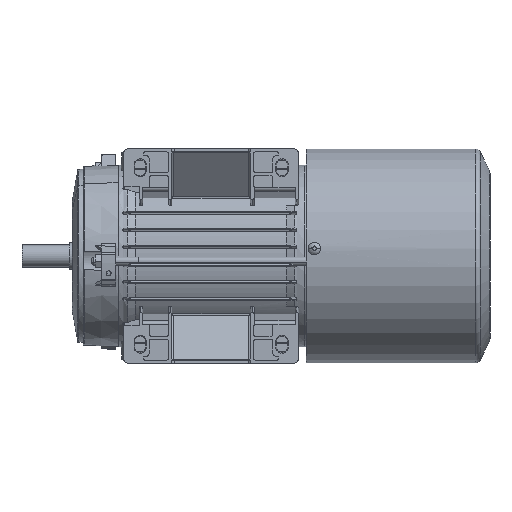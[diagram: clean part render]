
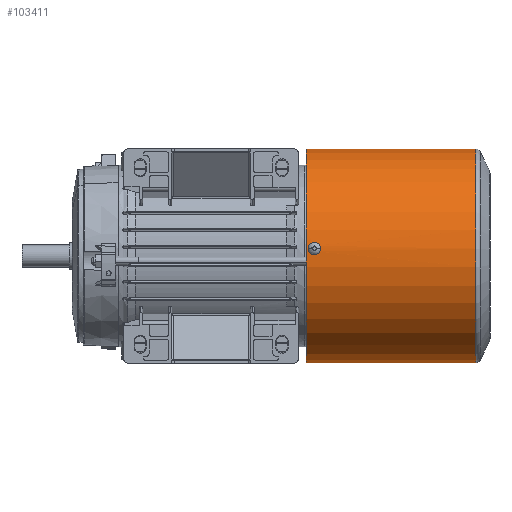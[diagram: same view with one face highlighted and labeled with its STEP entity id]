
A CAD part, front view. The second image highlights one B-rep face of the part: STEP entity #103411.
In plain terms, the highlighted cylindrical face has radius 68 mm (diameter 136 mm), a partial arc.
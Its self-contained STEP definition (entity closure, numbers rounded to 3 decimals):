
#375 = VECTOR ( 'NONE', #9395, 1000. ) ;
#478 = CARTESIAN_POINT ( 'NONE',  ( 1.898, 110.856, 67.974 ) ) ;
#823 = CARTESIAN_POINT ( 'NONE',  ( -0.262, 109.5, 68. ) ) ;
#1025 = EDGE_CURVE ( 'NONE', #42118, #5994, #48735, .T. ) ;
#1099 = CARTESIAN_POINT ( 'NONE',  ( -68., 139.861, 0. ) ) ;
#5353 = CARTESIAN_POINT ( 'NONE',  ( -1.506, 112.822, 67.983 ) ) ;
#5700 = CARTESIAN_POINT ( 'NONE',  ( 1.22, 113.09, 67.989 ) ) ;
#5857 = CARTESIAN_POINT ( 'NONE',  ( 0., 139.861, 0. ) ) ;
#5994 = VERTEX_POINT ( 'NONE', #36945 ) ;
#7322 = CARTESIAN_POINT ( 'NONE',  ( 0., 116.5, 0. ) ) ;
#8762 = CARTESIAN_POINT ( 'NONE',  ( 1.735, 110.497, 67.978 ) ) ;
#9114 = CARTESIAN_POINT ( 'NONE',  ( -1.006, 109.752, 67.993 ) ) ;
#9395 = DIRECTION ( 'NONE',  ( 0., 1., 0. ) ) ;
#9668 = CARTESIAN_POINT ( 'NONE',  ( 68., 9.011, 0. ) ) ;
#11026 = LINE ( 'NONE', #39787, #68591 ) ;
#12024 = CARTESIAN_POINT ( 'NONE',  ( 2., 111.5, 67.971 ) ) ;
#13642 = CARTESIAN_POINT ( 'NONE',  ( -1.221, 113.089, 67.989 ) ) ;
#13987 = CARTESIAN_POINT ( 'NONE',  ( 1.6, 112.729, 67.981 ) ) ;
#14091 = FACE_OUTER_BOUND ( 'NONE', #104205, .T. ) ;
#14504 = EDGE_CURVE ( 'NONE', #63236, #22202, #16116, .T. ) ;
#15591 = DIRECTION ( 'NONE',  ( -1., 0., 0. ) ) ;
#16116 = B_SPLINE_CURVE_WITH_KNOTS ( 'NONE', 3,
 ( #73889, #82150, #98485, #49556, #478, #57729, #8762, #65986, #17015, #74244, #25238, #82505, #33444, #90689, #41677, #98825, #49895, #823, #58092, #9114, #66336, #17382, #74602, #25588, #82858, #33814, #91028, #42021, #99183, #50236 ),
 .UNSPECIFIED., .F., .F.,
 ( 4, 2, 2, 2, 2, 2, 2, 2, 2, 2, 2, 2, 2, 2, 4 ),
 ( 0.003, 0.004, 0.004, 0.004, 0.005, 0.005, 0.005, 0.006, 0.006, 0.007, 0.008, 0.008, 0.009, 0.009, 0.009 ),
 .UNSPECIFIED. ) ;
#17015 = CARTESIAN_POINT ( 'NONE',  ( 1.507, 110.179, 67.983 ) ) ;
#17382 = CARTESIAN_POINT ( 'NONE',  ( -1.506, 110.178, 67.983 ) ) ;
#18300 = VERTEX_POINT ( 'NONE', #9668 ) ;
#21872 = CARTESIAN_POINT ( 'NONE',  ( -0.886, 113.298, 67.994 ) ) ;
#22202 = VERTEX_POINT ( 'NONE', #32102 ) ;
#22220 = CARTESIAN_POINT ( 'NONE',  ( 1.948, 112.024, 67.972 ) ) ;
#22417 = CARTESIAN_POINT ( 'NONE',  ( -68., 116.5, 0. ) ) ;
#23715 = DIRECTION ( 'NONE',  ( 0., 1., 0. ) ) ;
#23850 = EDGE_CURVE ( 'NONE', #18300, #5994, #11026, .T. ) ;
#25238 = CARTESIAN_POINT ( 'NONE',  ( 1.219, 109.909, 67.989 ) ) ;
#25588 = CARTESIAN_POINT ( 'NONE',  ( -1.736, 110.498, 67.978 ) ) ;
#30107 = CARTESIAN_POINT ( 'NONE',  ( -0.263, 113.5, 68. ) ) ;
#30433 = CARTESIAN_POINT ( 'NONE',  ( 2., 111.5, 67.971 ) ) ;
#32102 = CARTESIAN_POINT ( 'NONE',  ( -2., 111.5, 67.971 ) ) ;
#33444 = CARTESIAN_POINT ( 'NONE',  ( 0.886, 109.702, 67.994 ) ) ;
#33814 = CARTESIAN_POINT ( 'NONE',  ( -1.898, 110.855, 67.974 ) ) ;
#35834 = FACE_BOUND ( 'NONE', #57516, .T. ) ;
#36945 = CARTESIAN_POINT ( 'NONE',  ( 68., 116.5, 0. ) ) ;
#37963 = CARTESIAN_POINT ( 'NONE',  ( -1.936, 112.018, 67.972 ) ) ;
#38319 = CARTESIAN_POINT ( 'NONE',  ( 0.264, 113.487, 68. ) ) ;
#39787 = CARTESIAN_POINT ( 'NONE',  ( 68., 139.861, 0. ) ) ;
#41677 = CARTESIAN_POINT ( 'NONE',  ( 0.519, 109.564, 67.998 ) ) ;
#42021 = CARTESIAN_POINT ( 'NONE',  ( -1.987, 111.238, 67.971 ) ) ;
#42118 = VERTEX_POINT ( 'NONE', #22417 ) ;
#46178 = CARTESIAN_POINT ( 'NONE',  ( -1.797, 112.387, 67.976 ) ) ;
#46538 = CARTESIAN_POINT ( 'NONE',  ( 0.646, 113.397, 67.997 ) ) ;
#48735 = CIRCLE ( 'NONE', #74347, 68. ) ;
#49251 = ORIENTED_EDGE ( 'NONE', *, *, #55302, .T. ) ;
#49556 = CARTESIAN_POINT ( 'NONE',  ( 1.936, 110.981, 67.972 ) ) ;
#49895 = CARTESIAN_POINT ( 'NONE',  ( 0.13, 109.5, 68. ) ) ;
#49922 = AXIS2_PLACEMENT_3D ( 'NONE', #72736, #23715, #80985 ) ;
#50236 = CARTESIAN_POINT ( 'NONE',  ( -2., 111.5, 67.971 ) ) ;
#53172 = ORIENTED_EDGE ( 'NONE', *, *, #23850, .T. ) ;
#54034 = CARTESIAN_POINT ( 'NONE',  ( -2., 111.5, 67.971 ) ) ;
#54390 = CARTESIAN_POINT ( 'NONE',  ( -1.591, 112.719, 67.981 ) ) ;
#54738 = CARTESIAN_POINT ( 'NONE',  ( 1.003, 113.235, 67.993 ) ) ;
#54880 = DIRECTION ( 'NONE',  ( -1., 0., 0. ) ) ;
#55229 = DIRECTION ( 'NONE',  ( 0., 1., 0. ) ) ;
#55302 = EDGE_CURVE ( 'NONE', #65329, #18300, #76221, .T. ) ;
#57516 = EDGE_LOOP ( 'NONE', ( #78107, #59417 ) ) ;
#57729 = CARTESIAN_POINT ( 'NONE',  ( 1.798, 110.614, 67.976 ) ) ;
#58092 = CARTESIAN_POINT ( 'NONE',  ( -0.525, 109.553, 67.998 ) ) ;
#59417 = ORIENTED_EDGE ( 'NONE', *, *, #14504, .T. ) ;
#59791 = ORIENTED_EDGE ( 'NONE', *, *, #1025, .F. ) ;
#62257 = CARTESIAN_POINT ( 'NONE',  ( -2., 111.632, 67.971 ) ) ;
#62596 = CARTESIAN_POINT ( 'NONE',  ( -1.322, 113.007, 67.987 ) ) ;
#62965 = CARTESIAN_POINT ( 'NONE',  ( 1.323, 113.005, 67.987 ) ) ;
#63236 = VERTEX_POINT ( 'NONE', #12024 ) ;
#64564 = DIRECTION ( 'NONE',  ( 0., 1., 0. ) ) ;
#65196 = EDGE_CURVE ( 'NONE', #22202, #63236, #83389, .T. ) ;
#65329 = VERTEX_POINT ( 'NONE', #97239 ) ;
#65986 = CARTESIAN_POINT ( 'NONE',  ( 1.59, 110.28, 67.981 ) ) ;
#66336 = CARTESIAN_POINT ( 'NONE',  ( -1.23, 109.901, 67.989 ) ) ;
#68591 = VECTOR ( 'NONE', #88837, 1000. ) ;
#70860 = CARTESIAN_POINT ( 'NONE',  ( -1.003, 113.235, 67.993 ) ) ;
#71215 = CARTESIAN_POINT ( 'NONE',  ( 1.748, 112.505, 67.978 ) ) ;
#72217 = ORIENTED_EDGE ( 'NONE', *, *, #75550, .F. ) ;
#72736 = CARTESIAN_POINT ( 'NONE',  ( 0., 9.011, 0. ) ) ;
#73889 = CARTESIAN_POINT ( 'NONE',  ( 2., 111.5, 67.971 ) ) ;
#74244 = CARTESIAN_POINT ( 'NONE',  ( 1.321, 109.992, 67.987 ) ) ;
#74347 = AXIS2_PLACEMENT_3D ( 'NONE', #7322, #64564, #15591 ) ;
#74602 = CARTESIAN_POINT ( 'NONE',  ( -1.591, 110.281, 67.981 ) ) ;
#75550 = EDGE_CURVE ( 'NONE', #65329, #42118, #87566, .T. ) ;
#76221 = CIRCLE ( 'NONE', #49922, 68. ) ;
#76826 = CYLINDRICAL_SURFACE ( 'NONE', #89538, 68. ) ;
#78107 = ORIENTED_EDGE ( 'NONE', *, *, #65196, .T. ) ;
#79122 = CARTESIAN_POINT ( 'NONE',  ( -0.525, 113.447, 67.998 ) ) ;
#79469 = CARTESIAN_POINT ( 'NONE',  ( 2., 111.761, 67.971 ) ) ;
#80985 = DIRECTION ( 'NONE',  ( -1., 0., 0. ) ) ;
#82150 = CARTESIAN_POINT ( 'NONE',  ( 2., 111.37, 67.971 ) ) ;
#82505 = CARTESIAN_POINT ( 'NONE',  ( 1.003, 109.765, 67.993 ) ) ;
#82858 = CARTESIAN_POINT ( 'NONE',  ( -1.797, 110.613, 67.976 ) ) ;
#83389 = B_SPLINE_CURVE_WITH_KNOTS ( 'NONE', 3,
 ( #54034, #62257, #86999, #37963, #95177, #46178, #103330, #54390, #5353, #62596, #13642, #70860, #21872, #79122, #30107, #87360, #38319, #95518, #46538, #103679, #54738, #5700, #62965, #13987, #71215, #22220, #79469, #30433 ),
 .UNSPECIFIED., .F., .F.,
 ( 4, 2, 2, 2, 2, 2, 2, 2, 2, 2, 2, 2, 2, 4 ),
 ( 0.009, 0.01, 0.01, 0.011, 0.011, 0.011, 0.012, 0.013, 0.013, 0.013, 0.014, 0.014, 0.015, 0.016 ),
 .UNSPECIFIED. ) ;
#86999 = CARTESIAN_POINT ( 'NONE',  ( -1.987, 111.762, 67.971 ) ) ;
#87360 = CARTESIAN_POINT ( 'NONE',  ( 0.134, 113.5, 68. ) ) ;
#87566 = LINE ( 'NONE', #1099, #375 ) ;
#88837 = DIRECTION ( 'NONE',  ( 0., 1., 0. ) ) ;
#89538 = AXIS2_PLACEMENT_3D ( 'NONE', #5857, #55229, #54880 ) ;
#90689 = CARTESIAN_POINT ( 'NONE',  ( 0.643, 109.602, 67.997 ) ) ;
#91028 = CARTESIAN_POINT ( 'NONE',  ( -1.936, 110.982, 67.972 ) ) ;
#95177 = CARTESIAN_POINT ( 'NONE',  ( -1.898, 112.145, 67.974 ) ) ;
#95518 = CARTESIAN_POINT ( 'NONE',  ( 0.519, 113.436, 67.998 ) ) ;
#97239 = CARTESIAN_POINT ( 'NONE',  ( -68., 9.011, 0. ) ) ;
#98485 = CARTESIAN_POINT ( 'NONE',  ( 1.987, 111.237, 67.971 ) ) ;
#98825 = CARTESIAN_POINT ( 'NONE',  ( 0.262, 109.513, 68. ) ) ;
#99183 = CARTESIAN_POINT ( 'NONE',  ( -2., 111.368, 67.971 ) ) ;
#103330 = CARTESIAN_POINT ( 'NONE',  ( -1.736, 112.502, 67.978 ) ) ;
#103411 = ADVANCED_FACE ( 'NONE', ( #35834, #14091 ), #76826, .T. ) ;
#103679 = CARTESIAN_POINT ( 'NONE',  ( 0.888, 113.297, 67.994 ) ) ;
#104205 = EDGE_LOOP ( 'NONE', ( #49251, #53172, #59791, #72217 ) ) ;
